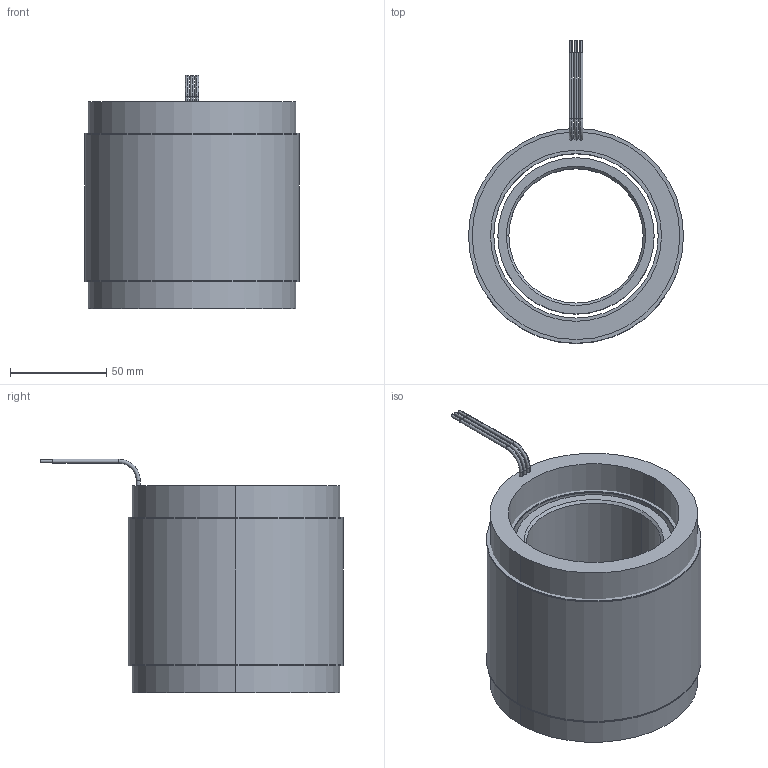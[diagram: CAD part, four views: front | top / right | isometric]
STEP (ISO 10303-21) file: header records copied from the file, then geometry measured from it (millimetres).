
FILE_DESCRIPTION (( 'STEP AP214' ), '1' );
FILE_NAME ('6100255-05.STEP', '2019-11-11T17:42:16', ( '' ), ( '' ), 'SwSTEP 2.0', 'SolidWorks 2016', '' );
FILE_SCHEMA (( 'AUTOMOTIVE_DESIGN' ));
Length unit declared in the file: millimetre
Products named in the file (11): 4600515-00; 4450154-XX_4450154-03; 6100255-05; 4400054-00; 4150144-XX_4150144-03; COMP4500516-XX(COIL)_COMP4500516-05(COIL); 4500516-XX_4500516-05; 4250340-XX_4250340-03
Assembly tree (10 placements, depth 4):
  6100255-05
    4500516-XX_4500516-05
      4450154-XX_4450154-03
        4450154-XX_4450154-03
        4400054-00
        4400054-00
        4600515-00
        4600515-00
      COMP4500516-XX(COIL)_COMP4500516-05(COIL)
    4250340-XX_4250340-03
      4150144-XX_4150144-03
Bounding box: 111.76 x 157.42 x 121.41 mm (x, y, z)
Volume: 734950.2 mm3; surface area: 200710.8 mm2
Topology: 7 solids, 7 shells, 76 faces, 152 edges, 96 vertices
Faces by surface type: cylinder 46, plane 20, torus 6, cone 4
Entity records: 2446 total; most frequent: DIRECTION 438, CARTESIAN_POINT 340, ORIENTED_EDGE 304, AXIS2_PLACEMENT_3D 194, EDGE_CURVE 152, CIRCLE 102, VERTEX_POINT 96, EDGE_LOOP 96
